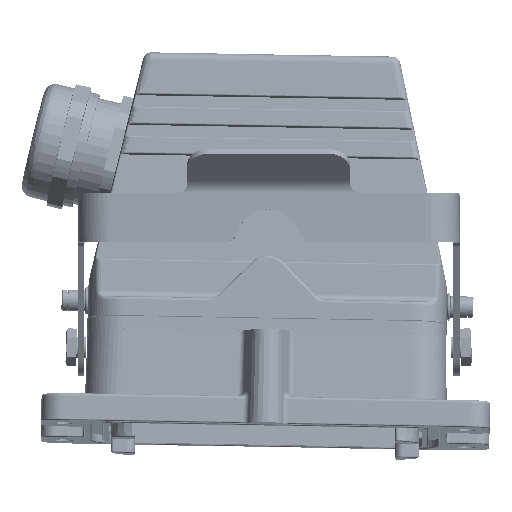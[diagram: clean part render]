
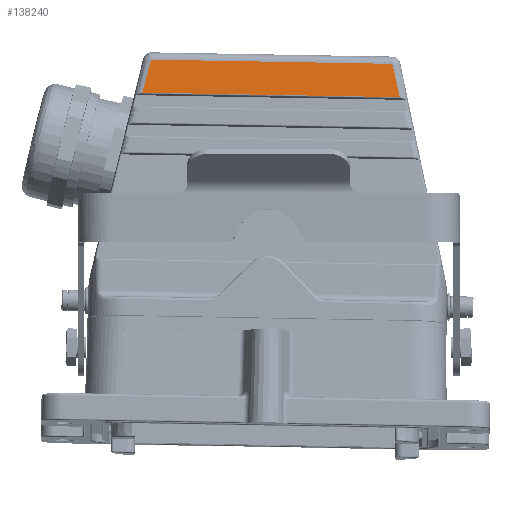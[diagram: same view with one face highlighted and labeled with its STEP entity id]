
A CAD part, top view. The second image highlights one B-rep face of the part: STEP entity #138240.
In plain terms, the highlighted planar face has unit normal (0.002, 0.106, 0.994) as drawn and (0, 0.017, 1) by its records, which use the part's own axes.
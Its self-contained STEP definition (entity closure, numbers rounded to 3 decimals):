
#14011 = CARTESIAN_POINT ( 'NONE',  ( -44.393, 134.635, 38.463 ) ) ;
#27695 = VERTEX_POINT ( 'NONE', #56151 ) ;
#35171 = EDGE_CURVE ( 'NONE', #261474, #209167, #166675, .T. ) ;
#41579 = CARTESIAN_POINT ( 'NONE',  ( -44.356, 134.654, 38.463 ) ) ;
#46597 = ORIENTED_EDGE ( 'NONE', *, *, #223653, .F. ) ;
#56151 = CARTESIAN_POINT ( 'NONE',  ( -44.394, 134.631, 38.463 ) ) ;
#72614 = CARTESIAN_POINT ( 'NONE',  ( 44.397, 134.632, 38.463 ) ) ;
#75892 = CARTESIAN_POINT ( 'NONE',  ( -44.394, 134.631, 38.463 ) ) ;
#82561 = DIRECTION ( 'NONE',  ( 0., 0.017, 1. ) ) ;
#84985 = CARTESIAN_POINT ( 'NONE',  ( 45.39, 130.552, 38.535 ) ) ;
#98452 = B_SPLINE_CURVE_WITH_KNOTS ( 'NONE', 3,
 ( #174910, #199332, #126152, #72614 ),
 .UNSPECIFIED., .F., .F.,
 ( 4, 4 ),
 ( 0., 1. ),
 .UNSPECIFIED. ) ;
#102440 = VERTEX_POINT ( 'NONE', #145223 ) ;
#103345 = B_SPLINE_CURVE_WITH_KNOTS ( 'NONE', 3,
 ( #184576, #14011, #113089, #209005, #210588, #207407, #257489, #307787, #195794, #41579 ),
 .UNSPECIFIED., .F., .F.,
 ( 4, 2, 2, 2, 4 ),
 ( 0., 0.25, 0.375, 0.5, 1. ),
 .UNSPECIFIED. ) ;
#113089 = CARTESIAN_POINT ( 'NONE',  ( -44.391, 134.639, 38.463 ) ) ;
#118209 = CARTESIAN_POINT ( 'NONE',  ( -44.356, 134.654, 38.463 ) ) ;
#119294 = VECTOR ( 'NONE', #189449, 1000. ) ;
#126152 = CARTESIAN_POINT ( 'NONE',  ( 44.394, 134.648, 38.463 ) ) ;
#128316 = EDGE_LOOP ( 'NONE', ( #177462, #272111, #46597, #213219, #193069, #293832 ) ) ;
#134612 = VERTEX_POINT ( 'NONE', #231774 ) ;
#138240 = ADVANCED_FACE ( 'NONE', ( #304873 ), #283698, .T. ) ;
#145223 = CARTESIAN_POINT ( 'NONE',  ( 44.353, 134.652, 38.463 ) ) ;
#166675 = LINE ( 'NONE', #262358, #119294 ) ;
#166769 = AXIS2_PLACEMENT_3D ( 'NONE', #180053, #82561, #207675 ) ;
#174910 = CARTESIAN_POINT ( 'NONE',  ( 44.353, 134.652, 38.463 ) ) ;
#174988 = CARTESIAN_POINT ( 'NONE',  ( -47.354, 122.387, 38.677 ) ) ;
#177462 = ORIENTED_EDGE ( 'NONE', *, *, #195239, .T. ) ;
#180053 = CARTESIAN_POINT ( 'NONE',  ( 0., 128.52, 38.57 ) ) ;
#184092 = CARTESIAN_POINT ( 'NONE',  ( 44.397, 134.632, 38.463 ) ) ;
#184576 = CARTESIAN_POINT ( 'NONE',  ( -44.394, 134.631, 38.463 ) ) ;
#189449 = DIRECTION ( 'NONE',  ( 1., 0., 0. ) ) ;
#193069 = ORIENTED_EDGE ( 'NONE', *, *, #259523, .T. ) ;
#195239 = EDGE_CURVE ( 'NONE', #102440, #272376, #274488, .T. ) ;
#195794 = CARTESIAN_POINT ( 'NONE',  ( -44.36, 134.654, 38.463 ) ) ;
#199332 = CARTESIAN_POINT ( 'NONE',  ( 44.372, 134.652, 38.463 ) ) ;
#207407 = CARTESIAN_POINT ( 'NONE',  ( -44.383, 134.647, 38.463 ) ) ;
#207556 = B_SPLINE_CURVE_WITH_KNOTS ( 'NONE', 3,
 ( #246397, #226930, #298236, #75892 ),
 .UNSPECIFIED., .F., .F.,
 ( 4, 4 ),
 ( 0., 1. ),
 .UNSPECIFIED. ) ;
#207675 = DIRECTION ( 'NONE',  ( 1., 0., 0. ) ) ;
#209005 = CARTESIAN_POINT ( 'NONE',  ( -44.387, 134.644, 38.463 ) ) ;
#209167 = VERTEX_POINT ( 'NONE', #242869 ) ;
#210588 = CARTESIAN_POINT ( 'NONE',  ( -44.386, 134.645, 38.463 ) ) ;
#213219 = ORIENTED_EDGE ( 'NONE', *, *, #35171, .T. ) ;
#223653 = EDGE_CURVE ( 'NONE', #261474, #27695, #207556, .T. ) ;
#225201 = B_SPLINE_CURVE_WITH_KNOTS ( 'NONE', 3,
 ( #305712, #257019, #84985, #184092 ),
 .UNSPECIFIED., .F., .F.,
 ( 4, 4 ),
 ( 0., 1. ),
 .UNSPECIFIED. ) ;
#226930 = CARTESIAN_POINT ( 'NONE',  ( -46.374, 126.47, 38.606 ) ) ;
#230801 = VECTOR ( 'NONE', #250216, 1000. ) ;
#231774 = CARTESIAN_POINT ( 'NONE',  ( 44.397, 134.632, 38.463 ) ) ;
#242869 = CARTESIAN_POINT ( 'NONE',  ( 47.354, 122.387, 38.677 ) ) ;
#246397 = CARTESIAN_POINT ( 'NONE',  ( -47.354, 122.387, 38.677 ) ) ;
#250216 = DIRECTION ( 'NONE',  ( -1., 0., 0. ) ) ;
#256120 = EDGE_CURVE ( 'NONE', #102440, #134612, #98452, .T. ) ;
#257019 = CARTESIAN_POINT ( 'NONE',  ( 46.375, 126.471, 38.606 ) ) ;
#257489 = CARTESIAN_POINT ( 'NONE',  ( -44.383, 134.648, 38.463 ) ) ;
#259523 = EDGE_CURVE ( 'NONE', #209167, #134612, #225201, .T. ) ;
#261474 = VERTEX_POINT ( 'NONE', #174988 ) ;
#262358 = CARTESIAN_POINT ( 'NONE',  ( 0., 122.387, 38.677 ) ) ;
#272111 = ORIENTED_EDGE ( 'NONE', *, *, #306927, .F. ) ;
#272376 = VERTEX_POINT ( 'NONE', #118209 ) ;
#274488 = LINE ( 'NONE', #277645, #230801 ) ;
#277645 = CARTESIAN_POINT ( 'NONE',  ( 44.353, 134.652, 38.463 ) ) ;
#283698 = PLANE ( 'NONE',  #166769 ) ;
#293832 = ORIENTED_EDGE ( 'NONE', *, *, #256120, .F. ) ;
#298236 = CARTESIAN_POINT ( 'NONE',  ( -45.388, 130.551, 38.535 ) ) ;
#304873 = FACE_OUTER_BOUND ( 'NONE', #128316, .T. ) ;
#305712 = CARTESIAN_POINT ( 'NONE',  ( 47.354, 122.387, 38.677 ) ) ;
#306927 = EDGE_CURVE ( 'NONE', #27695, #272376, #103345, .T. ) ;
#307787 = CARTESIAN_POINT ( 'NONE',  ( -44.367, 134.653, 38.463 ) ) ;
